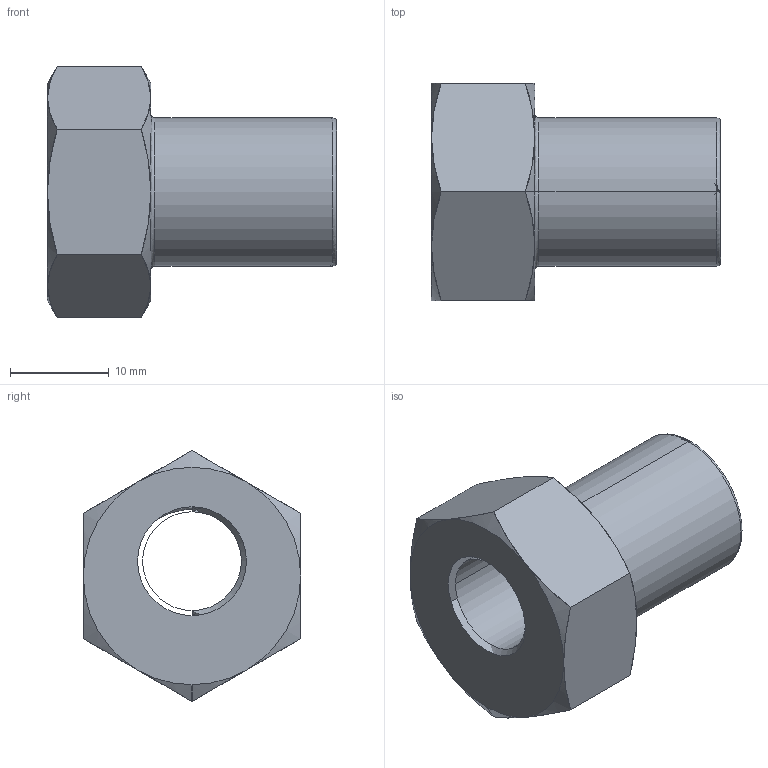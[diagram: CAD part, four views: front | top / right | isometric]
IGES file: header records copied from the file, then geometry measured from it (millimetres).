
Start section: 3D InterOp IGES (v. 2019 1.0.2), Spatial Corp. Copyright (c) 1999-2017.
Global section: file name: BX4SSM.igs; native system: Spatial Corp.; preprocessor: 3D InterOp GENERIC/IGES 3.0; author: Noname; organization: Noname; date: 20200930.105803; units: millimetre
Bounding box: 29.26 x 22 x 25.4 mm (x, y, z)
Surface area: 3364 mm2 (no closed solid volume)
Topology: 0 solids, 0 shells, 35 faces, 208 edges, 206 vertices
Faces by surface type: revolution 26, extrusion 9
